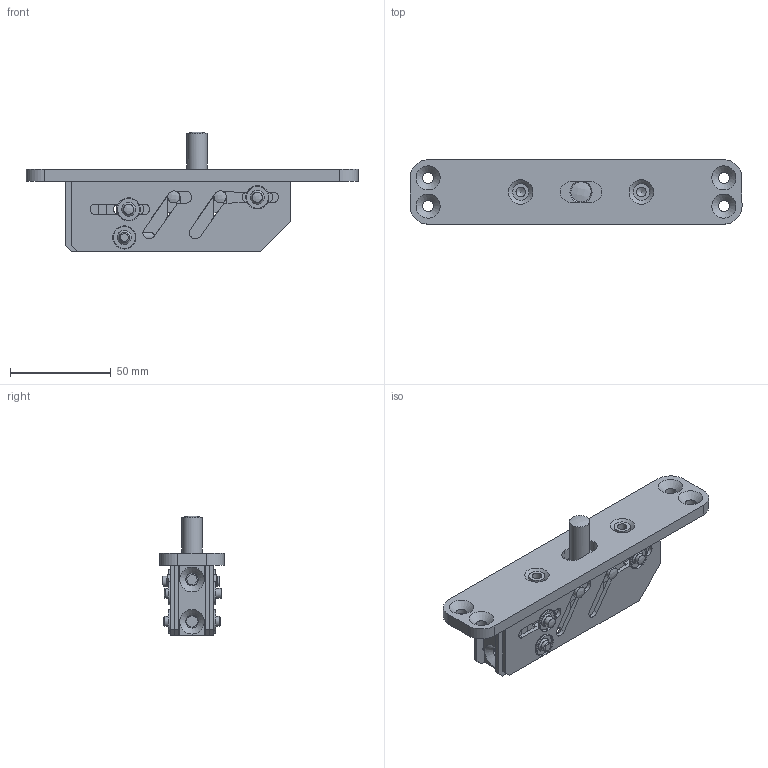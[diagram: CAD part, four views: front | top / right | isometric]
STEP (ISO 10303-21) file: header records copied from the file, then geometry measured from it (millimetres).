
FILE_DESCRIPTION (( 'STEP AP214' ), '1' );
FILE_NAME ('AssyUpperPivot1_d.STEP', '2020-06-23T14:30:25', ( '' ), ( '' ), 'SwSTEP 2.0', 'SolidWorks 2020', '' );
FILE_SCHEMA (( 'AUTOMOTIVE_DESIGN' ));
Length unit declared in the file: millimetre
Products named in the file (1): AssyUpperPivot1_d
Bounding box: 165 x 32 x 59.29 mm (x, y, z)
Volume: 77820.7 mm3; surface area: 39060.7 mm2
Topology: 1 solids, 1 shells, 431 faces, 1223 edges, 782 vertices
Faces by surface type: plane 248, cylinder 117, cone 40, bspline 26
Full cylindrical faces by diameter (mm): 4.7 x2, 5 x12, 5.12 x2, 5.5 x4, 6 x8, 6.2 x3, 6.5 x1, 8.1 x2, 10 x4, 11.1 x6, 11.5 x6
Entity records: 15598 total; most frequent: CARTESIAN_POINT 5141, DIRECTION 2133, ORIENTED_EDGE 2064, EDGE_CURVE 1032, AXIS2_PLACEMENT_3D 731, VERTEX_POINT 702, LINE 671, VECTOR 671
